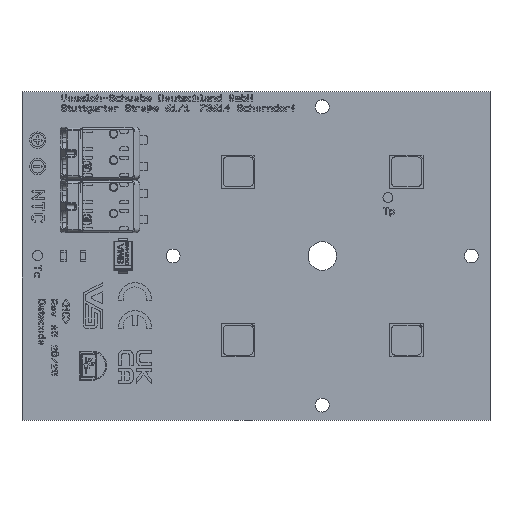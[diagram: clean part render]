
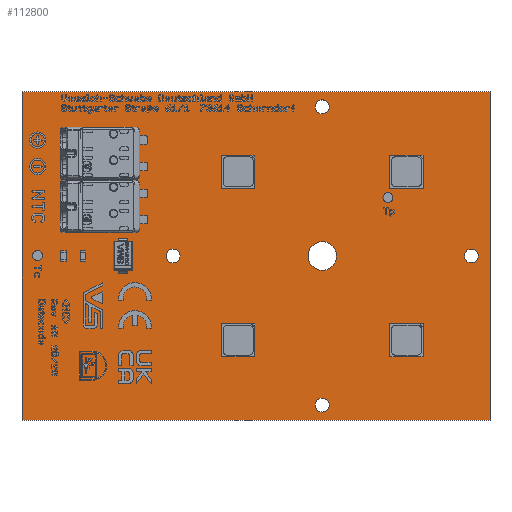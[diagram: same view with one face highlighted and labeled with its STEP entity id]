
A CAD part, top view. The second image highlights one B-rep face of the part: STEP entity #112800.
In plain terms, the highlighted planar face has unit normal (0, 0, 1).
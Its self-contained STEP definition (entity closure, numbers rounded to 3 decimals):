
#111660=CARTESIAN_POINT('',(0.,0.,0.));
#111670=DIRECTION('',(0.,0.,1.));
#111680=DIRECTION('',(1.,0.,0.));
#111690=AXIS2_PLACEMENT_3D('',#111660,#111670,#111680);
#111700=PLANE('',#111690);
#111710=CARTESIAN_POINT('',(0.,0.,0.));
#111720=DIRECTION('',(0.,1.,0.));
#111730=VECTOR('',#111720,0.039);
#111740=LINE('',#111710,#111730);
#111750=CARTESIAN_POINT('',(0.,0.,0.));
#111760=VERTEX_POINT('',#111750);
#111770=CARTESIAN_POINT('',(0.,49.5,0.));
#111780=VERTEX_POINT('',#111770);
#111790=EDGE_CURVE('',#111760,#111780,#111740,.T.);
#111800=ORIENTED_EDGE('',*,*,#111790,.F.);
#111810=CARTESIAN_POINT('',(0.,49.5,0.));
#111820=DIRECTION('',(1.,0.,0.));
#111830=VECTOR('',#111820,0.039);
#111840=LINE('',#111810,#111830);
#111850=CARTESIAN_POINT('',(70.6,49.5,0.));
#111860=VERTEX_POINT('',#111850);
#111870=EDGE_CURVE('',#111780,#111860,#111840,.T.);
#111880=ORIENTED_EDGE('',*,*,#111870,.F.);
#111890=CARTESIAN_POINT('',(70.6,49.5,0.));
#111900=DIRECTION('',(0.,-1.,0.));
#111910=VECTOR('',#111900,0.039);
#111920=LINE('',#111890,#111910);
#111930=CARTESIAN_POINT('',(70.6,0.,0.));
#111940=VERTEX_POINT('',#111930);
#111950=EDGE_CURVE('',#111860,#111940,#111920,.T.);
#111960=ORIENTED_EDGE('',*,*,#111950,.F.);
#111970=CARTESIAN_POINT('',(70.6,0.,0.));
#111980=DIRECTION('',(-1.,0.,0.));
#111990=VECTOR('',#111980,0.039);
#112000=LINE('',#111970,#111990);
#112010=EDGE_CURVE('',#111940,#111760,#112000,.T.);
#112020=ORIENTED_EDGE('',*,*,#112010,.F.);
#112030=EDGE_LOOP('',(#112020,#111960,#111880,#111800));
#112040=FACE_OUTER_BOUND('',#112030,.T.);
#112050=CARTESIAN_POINT('',(45.3,24.75,0.));
#112060=DIRECTION('',(0.,0.,1.));
#112070=DIRECTION('',(1.,0.,0.));
#112080=AXIS2_PLACEMENT_3D('',#112050,#112060,#112070);
#112090=CIRCLE('',#112080,2.15);
#112100=CARTESIAN_POINT('',(47.45,24.75,0.));
#112110=VERTEX_POINT('',#112100);
#112120=CARTESIAN_POINT('',(43.15,24.75,0.));
#112130=VERTEX_POINT('',#112120);
#112140=EDGE_CURVE('',#112110,#112130,#112090,.T.);
#112150=ORIENTED_EDGE('',*,*,#112140,.F.);
#112160=EDGE_CURVE('',#112130,#112110,#112090,.T.);
#112170=ORIENTED_EDGE('',*,*,#112160,.F.);
#112180=EDGE_LOOP('',(#112170,#112150));
#112190=FACE_BOUND('',#112180,.T.);
#112200=CARTESIAN_POINT('',(67.8,24.75,0.));
#112210=DIRECTION('',(0.,0.,1.));
#112220=DIRECTION('',(1.,0.,0.));
#112230=AXIS2_PLACEMENT_3D('',#112200,#112210,#112220);
#112240=CIRCLE('',#112230,1.05);
#112250=CARTESIAN_POINT('',(68.85,24.75,0.));
#112260=VERTEX_POINT('',#112250);
#112270=CARTESIAN_POINT('',(66.75,24.75,0.));
#112280=VERTEX_POINT('',#112270);
#112290=EDGE_CURVE('',#112260,#112280,#112240,.T.);
#112300=ORIENTED_EDGE('',*,*,#112290,.F.);
#112310=EDGE_CURVE('',#112280,#112260,#112240,.T.);
#112320=ORIENTED_EDGE('',*,*,#112310,.F.);
#112330=EDGE_LOOP('',(#112320,#112300));
#112340=FACE_BOUND('',#112330,.T.);
#112350=CARTESIAN_POINT('',(45.3,47.25,0.));
#112360=DIRECTION('',(0.,0.,1.));
#112370=DIRECTION('',(1.,0.,0.));
#112380=AXIS2_PLACEMENT_3D('',#112350,#112360,#112370);
#112390=CIRCLE('',#112380,1.05);
#112400=CARTESIAN_POINT('',(46.35,47.25,0.));
#112410=VERTEX_POINT('',#112400);
#112420=CARTESIAN_POINT('',(44.25,47.25,0.));
#112430=VERTEX_POINT('',#112420);
#112440=EDGE_CURVE('',#112410,#112430,#112390,.T.);
#112450=ORIENTED_EDGE('',*,*,#112440,.F.);
#112460=EDGE_CURVE('',#112430,#112410,#112390,.T.);
#112470=ORIENTED_EDGE('',*,*,#112460,.F.);
#112480=EDGE_LOOP('',(#112470,#112450));
#112490=FACE_BOUND('',#112480,.T.);
#112500=CARTESIAN_POINT('',(45.3,2.25,0.));
#112510=DIRECTION('',(0.,0.,1.));
#112520=DIRECTION('',(1.,0.,0.));
#112530=AXIS2_PLACEMENT_3D('',#112500,#112510,#112520);
#112540=CIRCLE('',#112530,1.05);
#112550=CARTESIAN_POINT('',(46.35,2.25,0.));
#112560=VERTEX_POINT('',#112550);
#112570=CARTESIAN_POINT('',(44.25,2.25,0.));
#112580=VERTEX_POINT('',#112570);
#112590=EDGE_CURVE('',#112560,#112580,#112540,.T.);
#112600=ORIENTED_EDGE('',*,*,#112590,.F.);
#112610=EDGE_CURVE('',#112580,#112560,#112540,.T.);
#112620=ORIENTED_EDGE('',*,*,#112610,.F.);
#112630=EDGE_LOOP('',(#112620,#112600));
#112640=FACE_BOUND('',#112630,.T.);
#112650=CARTESIAN_POINT('',(22.8,24.75,0.));
#112660=DIRECTION('',(0.,0.,1.));
#112670=DIRECTION('',(1.,0.,0.));
#112680=AXIS2_PLACEMENT_3D('',#112650,#112660,#112670);
#112690=CIRCLE('',#112680,1.05);
#112700=CARTESIAN_POINT('',(23.85,24.75,0.));
#112710=VERTEX_POINT('',#112700);
#112720=CARTESIAN_POINT('',(21.75,24.75,0.));
#112730=VERTEX_POINT('',#112720);
#112740=EDGE_CURVE('',#112710,#112730,#112690,.T.);
#112750=ORIENTED_EDGE('',*,*,#112740,.F.);
#112760=EDGE_CURVE('',#112730,#112710,#112690,.T.);
#112770=ORIENTED_EDGE('',*,*,#112760,.F.);
#112780=EDGE_LOOP('',(#112770,#112750));
#112790=FACE_BOUND('',#112780,.T.);
#112800=ADVANCED_FACE('',(#112040,#112190,#112340,#112490,#112640,
#112790),#111700,.T.);
